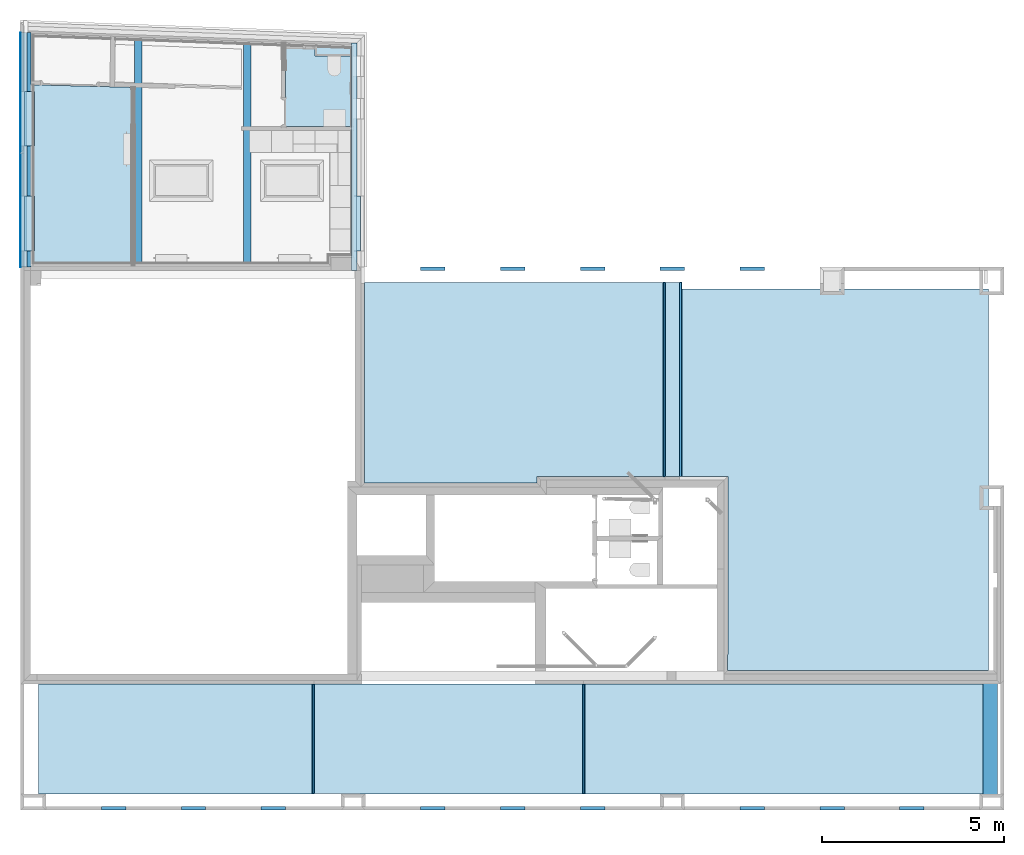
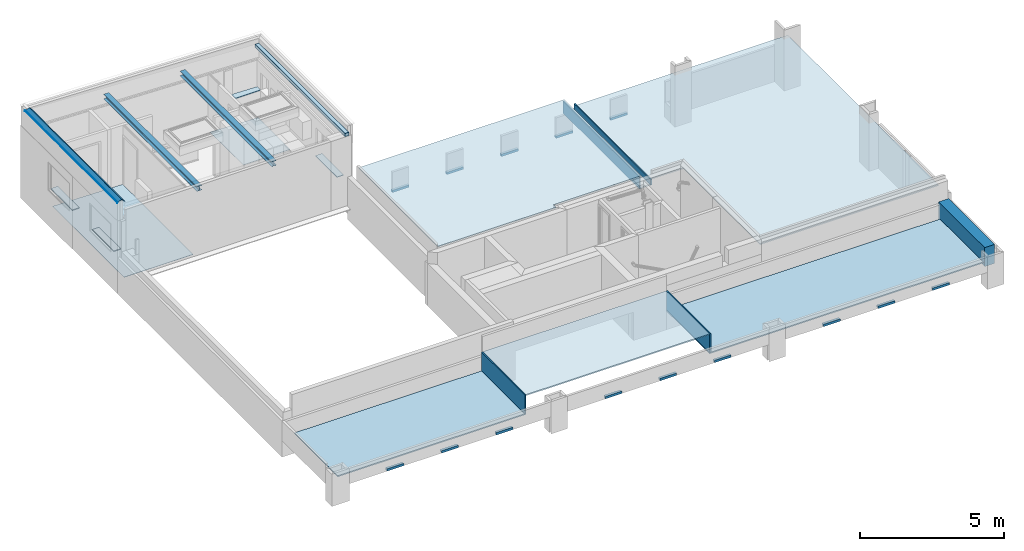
# One storey, part 1 of 23: 35 slabs, 4 members, 2 beams.
"""IFC2X3 building model written with IfcOpenShell, lengths in metres."""

from ifc_helpers import new_model, entity, si_unit, converted_unit, derived_unit, money_unit, direction, frame, frame_2d, origin_with_axes, place, context, subcontext, project, spatial, polyline, rectangle, outline, extrude, faceted_brep, material, type_object, element, save


model = new_model("IFC2X3")

# Units and contexts
model_context = context("Model", 3, precision=1e-05, world=origin_with_axes(), true_north=direction((0.0, 1.0)))
body_context = subcontext(model_context, "Body", "Model", "MODEL_VIEW", scale=1.0)
ifc_project = project(units=[si_unit("LENGTHUNIT", "METRE"), si_unit("AREAUNIT", "SQUARE_METRE"), si_unit("VOLUMEUNIT", "CUBIC_METRE"), si_unit("ABSORBEDDOSEUNIT", "GRAY"), si_unit("AMOUNTOFSUBSTANCEUNIT", "MOLE"), si_unit("DOSEEQUIVALENTUNIT", "SIEVERT"), si_unit("ELECTRICCAPACITANCEUNIT", "FARAD"), si_unit("ELECTRICCHARGEUNIT", "COULOMB"), si_unit("ELECTRICCONDUCTANCEUNIT", "SIEMENS"), si_unit("ELECTRICCURRENTUNIT", "AMPERE"), si_unit("ELECTRICRESISTANCEUNIT", "OHM"), si_unit("ELECTRICVOLTAGEUNIT", "VOLT"), si_unit("ENERGYUNIT", "JOULE"), si_unit("FORCEUNIT", "NEWTON"), si_unit("FREQUENCYUNIT", "HERTZ"), si_unit("ILLUMINANCEUNIT", "LUX"), si_unit("INDUCTANCEUNIT", "HENRY"), si_unit("LUMINOUSFLUXUNIT", "LUMEN"), si_unit("LUMINOUSINTENSITYUNIT", "CANDELA"), si_unit("MAGNETICFLUXDENSITYUNIT", "TESLA"), si_unit("MAGNETICFLUXUNIT", "WEBER"), si_unit("MASSUNIT", "GRAM"), converted_unit("PLANEANGLEUNIT", "degree", entity("IfcReal", 0.0174532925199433), si_unit("PLANEANGLEUNIT", "RADIAN"), dimensions=[0, 0, 0, 0, 0, 0, 0]), si_unit("POWERUNIT", "WATT"), si_unit("PRESSUREUNIT", "PASCAL"), si_unit("RADIOACTIVITYUNIT", "BECQUEREL"), si_unit("SOLIDANGLEUNIT", "STERADIAN"), si_unit("THERMODYNAMICTEMPERATUREUNIT", "KELVIN"), si_unit("TIMEUNIT", "SECOND"), derived_unit("ACCELERATIONUNIT", [(si_unit("LENGTHUNIT", "METRE"), 1), (si_unit("TIMEUNIT", "SECOND"), -2)]), derived_unit("ANGULARVELOCITYUNIT", [(converted_unit("PLANEANGLEUNIT", "degree", entity("IfcReal", 0.0174532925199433), si_unit("PLANEANGLEUNIT", "RADIAN"), dimensions=[0, 0, 0, 0, 0, 0, 0]), 1), (si_unit("TIMEUNIT", "SECOND"), -1)]), derived_unit("CURVATUREUNIT", [(converted_unit("PLANEANGLEUNIT", "degree", entity("IfcReal", 0.0174532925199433), si_unit("PLANEANGLEUNIT", "RADIAN"), dimensions=[0, 0, 0, 0, 0, 0, 0]), 1), (si_unit("LENGTHUNIT", "METRE"), -1)]), derived_unit("DYNAMICVISCOSITYUNIT", [(si_unit("PRESSUREUNIT", "PASCAL"), 1), (si_unit("TIMEUNIT", "SECOND"), 1)]), derived_unit("HEATFLUXDENSITYUNIT", [(si_unit("POWERUNIT", "WATT"), 1), (si_unit("LENGTHUNIT", "METRE"), -2)]), derived_unit("HEATINGVALUEUNIT", [(si_unit("ENERGYUNIT", "JOULE"), 1), (si_unit("MASSUNIT", "GRAM"), -1)]), derived_unit("INTEGERCOUNTRATEUNIT", [(si_unit("TIMEUNIT", "SECOND"), -1)]), derived_unit("IONCONCENTRATIONUNIT", [(si_unit("MASSUNIT", "GRAM"), 1), (si_unit("VOLUMEUNIT", "CUBIC_METRE"), -1)]), derived_unit("ISOTHERMALMOISTURECAPACITYUNIT", [(si_unit("VOLUMEUNIT", "CUBIC_METRE"), 1), (si_unit("MASSUNIT", "GRAM"), -1)]), derived_unit("KINEMATICVISCOSITYUNIT", [(si_unit("AREAUNIT", "SQUARE_METRE"), 1), (si_unit("TIMEUNIT", "SECOND"), -1)]), derived_unit("LINEARFORCEUNIT", [(si_unit("FORCEUNIT", "NEWTON"), 1), (si_unit("LENGTHUNIT", "METRE"), -1)]), derived_unit("LINEARMOMENTUNIT", [(si_unit("FORCEUNIT", "NEWTON"), 1), (si_unit("LENGTHUNIT", "METRE"), -1)]), derived_unit("LINEARSTIFFNESSUNIT", [(si_unit("FORCEUNIT", "NEWTON"), 1), (si_unit("LENGTHUNIT", "METRE"), -1)]), derived_unit("LINEARVELOCITYUNIT", [(si_unit("LENGTHUNIT", "METRE"), 1), (si_unit("TIMEUNIT", "SECOND"), -1)]), derived_unit("LUMINOUSINTENSITYDISTRIBUTIONUNIT", [(si_unit("LUMINOUSINTENSITYUNIT", "CANDELA"), 1), (si_unit("LUMINOUSFLUXUNIT", "LUMEN"), -1)]), derived_unit("MASSDENSITYUNIT", [(si_unit("MASSUNIT", "GRAM"), 1), (si_unit("VOLUMEUNIT", "CUBIC_METRE"), -1)]), derived_unit("MASSFLOWRATEUNIT", [(si_unit("MASSUNIT", "GRAM"), 1), (si_unit("TIMEUNIT", "SECOND"), -1)]), derived_unit("MASSPERLENGTHUNIT", [(si_unit("MASSUNIT", "GRAM"), 1), (si_unit("LENGTHUNIT", "METRE"), -1)]), derived_unit("MODULUSOFELASTICITYUNIT", [(si_unit("FORCEUNIT", "NEWTON"), 1), (si_unit("AREAUNIT", "SQUARE_METRE"), -1)]), derived_unit("MODULUSOFLINEARSUBGRADEREACTIONUNIT", [(si_unit("FORCEUNIT", "NEWTON"), 1), (si_unit("LENGTHUNIT", "METRE"), -2)]), derived_unit("MODULUSOFROTATIONALSUBGRADEREACTIONUNIT", [(si_unit("FORCEUNIT", "NEWTON"), 1), (si_unit("LENGTHUNIT", "METRE"), 1)]), derived_unit("MODULUSOFSUBGRADEREACTIONUNIT", [(si_unit("FORCEUNIT", "NEWTON"), 1), (si_unit("VOLUMEUNIT", "CUBIC_METRE"), -1)]), derived_unit("MOISTUREDIFFUSIVITYUNIT", [(si_unit("VOLUMEUNIT", "CUBIC_METRE"), 1), (si_unit("TIMEUNIT", "SECOND"), -1)]), derived_unit("MOLECULARWEIGHTUNIT", [(si_unit("MASSUNIT", "GRAM"), 1), (si_unit("AMOUNTOFSUBSTANCEUNIT", "MOLE"), -1)]), derived_unit("PLANARFORCEUNIT", [(si_unit("FORCEUNIT", "NEWTON"), 1), (si_unit("LENGTHUNIT", "METRE"), -2)]), derived_unit("ROTATIONALFREQUENCYUNIT", [(si_unit("TIMEUNIT", "SECOND"), -1)]), derived_unit("ROTATIONALMASSUNIT", [(si_unit("MASSUNIT", "GRAM"), 1), (si_unit("LENGTHUNIT", "METRE"), 2)]), derived_unit("ROTATIONALSTIFFNESSUNIT", [(si_unit("FORCEUNIT", "NEWTON"), 1), (si_unit("LENGTHUNIT", "METRE"), 1), (converted_unit("PLANEANGLEUNIT", "degree", entity("IfcReal", 0.0174532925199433), si_unit("PLANEANGLEUNIT", "RADIAN"), dimensions=[0, 0, 0, 0, 0, 0, 0]), -1)]), derived_unit("SECTIONAREAINTEGRALUNIT", [(si_unit("LENGTHUNIT", "METRE"), 5)]), derived_unit("SECTIONMODULUSUNIT", [(si_unit("LENGTHUNIT", "METRE"), 3)]), derived_unit("SHEARMODULUSUNIT", [(si_unit("FORCEUNIT", "NEWTON"), 1), (si_unit("AREAUNIT", "SQUARE_METRE"), -1)]), derived_unit("SOUNDPOWERUNIT", [(si_unit("ENERGYUNIT", "JOULE"), 1), (si_unit("TIMEUNIT", "SECOND"), -1)]), derived_unit("SPECIFICHEATCAPACITYUNIT", [(si_unit("FORCEUNIT", "NEWTON"), 1), (si_unit("MASSUNIT", "GRAM"), -1), (si_unit("THERMODYNAMICTEMPERATUREUNIT", "KELVIN"), -1)]), derived_unit("TEMPERATUREGRADIENTUNIT", [(si_unit("THERMODYNAMICTEMPERATUREUNIT", "KELVIN"), 1), (si_unit("LENGTHUNIT", "METRE"), -1)]), derived_unit("THERMALADMITTANCEUNIT", [(si_unit("POWERUNIT", "WATT"), 1), (si_unit("AREAUNIT", "SQUARE_METRE"), -1), (si_unit("THERMODYNAMICTEMPERATUREUNIT", "KELVIN"), -1)]), derived_unit("THERMALCONDUCTANCEUNIT", [(si_unit("POWERUNIT", "WATT"), 1), (si_unit("LENGTHUNIT", "METRE"), -1), (si_unit("THERMODYNAMICTEMPERATUREUNIT", "KELVIN"), -1)]), derived_unit("THERMALEXPANSIONCOEFFICIENTUNIT", [(si_unit("THERMODYNAMICTEMPERATUREUNIT", "KELVIN"), -1)]), derived_unit("THERMALRESISTANCEUNIT", [(si_unit("AREAUNIT", "SQUARE_METRE"), 1), (si_unit("POWERUNIT", "WATT"), -1)]), derived_unit("THERMALTRANSMITTANCEUNIT", [(si_unit("POWERUNIT", "WATT"), 1), (si_unit("AREAUNIT", "SQUARE_METRE"), -1), (si_unit("THERMODYNAMICTEMPERATUREUNIT", "KELVIN"), -1)]), derived_unit("TORQUEUNIT", [(si_unit("FORCEUNIT", "NEWTON"), 1), (si_unit("LENGTHUNIT", "METRE"), 1)]), derived_unit("VAPORPERMEABILITYUNIT", [(si_unit("MASSUNIT", "GRAM"), 1), (si_unit("TIMEUNIT", "SECOND"), -1)]), derived_unit("VOLUMETRICFLOWRATEUNIT", [(si_unit("VOLUMEUNIT", "CUBIC_METRE"), 1), (si_unit("TIMEUNIT", "SECOND"), -1)]), derived_unit("WARPINGCONSTANTUNIT", [(si_unit("LENGTHUNIT", "METRE"), 6)]), derived_unit("WARPINGMOMENTUNIT", [(si_unit("FORCEUNIT", "NEWTON"), 1), (si_unit("LENGTHUNIT", "METRE"), 2)]), money_unit("GBP")], contexts=[model_context])

# Site, building, storey
site_placement = place(None, origin_with_axes())
site = spatial("IfcSite", under=ifc_project, at=site_placement, Name="Site", CompositionType="ELEMENT")
building_placement = place(site_placement, origin_with_axes())
building = spatial("IfcBuilding", under=site, at=building_placement, Name="Building01", CompositionType="ELEMENT")
storey_placement = place(building_placement, frame((0.0, 0.0, 2.6), z_axis=(0.0, 0.0, 1.0), x_axis=(1.0, 0.0, 0.0)))
storey = spatial("IfcBuildingStorey", under=building, at=storey_placement, Name="MF", CompositionType="ELEMENT", Elevation=2.6)

# Beams
ifc_material_1 = material(Name="A_BSUK_Beams_Steel")
beam_type = type_object("IfcBeamType", Name="A-Beams-Steel", PredefinedType="BEAM")
beam_1_placement = place(storey_placement, frame((6.327424, 14.800006, 3.3068), z_axis=(0.0, 1.0, 0.0), x_axis=(-1.0, 0.0, 0.0)))
element("IfcBeam", 1, at=beam_1_placement, inside=storey, type_object=beam_type, material=ifc_material_1, Name="MZ", ObjectType="A-Beams-Steel", context=body_context, shape_type="SweptSolid", body=[
    extrude(outline(polyline([(0.2036, 0.0), (0.2036, 0.011), (0.1054, 0.011), (0.1054, 0.1922), (0.2036, 0.1922), (0.2036, 0.2032), (0.0, 0.2032), (0.0, 0.1922), (0.0982, 0.1922), (0.0982, 0.011), (0.0, 0.011), (0.0, 0.0), (0.2036, 0.0)])), origin_with_axes(), (0.0, 0.0, 1.0), 6.356644),
])
beam_2_placement = place(storey_placement, frame((3.327424, 14.800006, 3.3068), z_axis=(0.0, 1.0, 0.0), x_axis=(-1.0, 0.0, 0.0)))
element("IfcBeam", 2, at=beam_2_placement, inside=storey, type_object=beam_type, material=ifc_material_1, Name="MZ", ObjectType="A-Beams-Steel", context=body_context, shape_type="SweptSolid", body=[
    extrude(outline(polyline([(0.2036, 0.0), (0.2036, 0.011), (0.1054, 0.011), (0.1054, 0.1922), (0.2036, 0.1922), (0.2036, 0.2032), (0.0, 0.2032), (0.0, 0.1922), (0.0982, 0.1922), (0.0982, 0.011), (0.0, 0.011), (0.0, 0.0), (0.2036, 0.0)])), origin_with_axes(), (0.0, 0.0, 1.0), 6.467779),
])

# Members
ifc_material_2 = material(Name="A_BSUK_Steel_Miscellaneous")
member_type = type_object("IfcMemberType", Name="A-ZeeProfile01", PredefinedType="NOTDEFINED")
member_1_placement = place(storey_placement, frame((0.001098, 14.9, 3.88507), z_axis=(0.96520941, 0.0, 0.26147808), x_axis=(0.0, 1.0, 0.0)))
element("IfcMember", 3, at=member_1_placement, inside=storey, type_object=member_type, material=ifc_material_2, Name="A-ZeeProfile01", ObjectType="A-ZeeProfile01", context=body_context, shape_type="SweptSolid", body=[
    extrude(rectangle(XDim=6.427951, YDim=0.002, at=frame_2d((3.213976, 0.001), x_axis=(1.0, 0.0))), origin_with_axes(), (0.0, 0.0, 1.0), 0.183454),
])
member_2_placement = place(storey_placement, frame((-0.014143, 14.9, 3.872282), z_axis=(0.0, 0.0, -1.0), x_axis=(0.0, 1.0, 0.0)))
element("IfcMember", 4, at=member_2_placement, inside=storey, type_object=member_type, material=ifc_material_2, Name="A-ZeeProfile01", ObjectType="A-ZeeProfile01", context=body_context, shape_type="SweptSolid", body=[
    extrude(rectangle(XDim=6.427951, YDim=0.002, at=frame_2d((3.213976, 0.001), x_axis=(1.0, 0.0))), origin_with_axes(), (0.0, 0.0, 1.0), 0.020815),
])
member_3_placement = place(storey_placement, frame((0.001989, 14.9, 3.885586), z_axis=(-0.70710678, 0.0, -0.70710678), x_axis=(0.0, 1.0, 0.0)))
element("IfcMember", 5, at=member_3_placement, inside=storey, type_object=member_type, material=ifc_material_2, Name="A-ZeeProfile01", ObjectType="A-ZeeProfile01", context=body_context, shape_type="SweptSolid", body=[
    extrude(rectangle(XDim=6.427951, YDim=0.002, at=frame_2d((3.213976, -0.001), x_axis=(1.0, 0.0))), origin_with_axes(), (0.0, 0.0, 1.0), 0.020815),
])
member_4_placement = place(storey_placement, frame((0.17624, 14.9, 3.933559), z_axis=(0.7071316, 0.0, -0.70708196), x_axis=(0.0, 1.0, 0.0)))
element("IfcMember", 6, at=member_4_placement, inside=storey, type_object=member_type, material=ifc_material_2, Name="A-ZeeProfile01", ObjectType="A-ZeeProfile01", context=body_context, shape_type="SweptSolid", body=[
    extrude(rectangle(XDim=6.427951, YDim=0.002, at=frame_2d((3.213976, 0.001), x_axis=(1.0, 0.0))), origin_with_axes(), (0.0, 0.0, 1.0), 0.148481),
])

# Slabs
ifc_material_3 = material(Name="A_BSUK_Slabs")
slab_type = type_object("IfcSlabType", Name="A-FloorsSlabs A_BSUK_Slabs", PredefinedType="FLOOR")
placement = place(storey_placement, frame((0.0, 0.0, -2.6), z_axis=(0.0, 0.0, 1.0), x_axis=(1.0, 0.0, 0.0)))
element("IfcSlab", 7, at=placement, inside=storey, type_object=slab_type, material=ifc_material_3, Name="A-FloorsSlabs A_BSUK_Slabs", ObjectType="CompoundSlabLeaf", context=body_context, shape_type="Brep", body=[
    faceted_brep([(2.22, 0.0, 3.325), (2.22, 0.0, 3.425), (2.22, 0.100329, 3.425), (2.22, 0.100329, 3.325), (2.89, 0.0, 3.325), (2.89, 0.0, 3.425), (2.89, 0.1, 3.325), (2.89, 0.1, 3.425)], [[[0, 1, 2, 3]], [[4, 5, 1, 0]], [[6, 7, 5, 4]], [[3, 2, 7, 6]], [[1, 5, 7, 2]], [[3, 6, 4, 0]]]),
])
element("IfcSlab", 8, at=placement, inside=storey, type_object=slab_type, material=ifc_material_3, Name="A-FloorsSlabs A_BSUK_Slabs", ObjectType="CompoundSlabLeaf", context=body_context, shape_type="Brep", body=[
    faceted_brep([(4.41, 0.0, 3.325), (4.41, 0.0, 3.425), (4.41, 0.100329, 3.425), (4.41, 0.100329, 3.325), (5.08, 0.0, 3.325), (5.08, 0.0, 3.425), (5.08, 0.1, 3.325), (5.08, 0.1, 3.425)], [[[0, 1, 2, 3]], [[4, 5, 1, 0]], [[6, 7, 5, 4]], [[3, 2, 7, 6]], [[1, 5, 7, 2]], [[3, 6, 4, 0]]]),
])
element("IfcSlab", 9, at=placement, inside=storey, type_object=slab_type, material=ifc_material_3, Name="A-FloorsSlabs A_BSUK_Slabs", ObjectType="CompoundSlabLeaf", context=body_context, shape_type="Brep", body=[
    faceted_brep([(6.6, 0.0, 3.325), (6.6, 0.0, 3.425), (6.6, 0.100329, 3.425), (6.6, 0.100329, 3.325), (7.27, 0.0, 3.325), (7.27, 0.0, 3.425), (7.27, 0.1, 3.325), (7.27, 0.1, 3.425)], [[[0, 1, 2, 3]], [[4, 5, 1, 0]], [[6, 7, 5, 4]], [[3, 2, 7, 6]], [[1, 5, 7, 2]], [[3, 6, 4, 0]]]),
])
element("IfcSlab", 10, at=placement, inside=storey, type_object=slab_type, material=ifc_material_3, Name="A-FloorsSlabs A_BSUK_Slabs", ObjectType="CompoundSlabLeaf", context=body_context, shape_type="Brep", body=[
    faceted_brep([(10.98, 0.0, 3.325), (10.98, 0.0, 3.425), (10.98, 0.100329, 3.425), (10.98, 0.100329, 3.325), (11.65, 0.0, 3.325), (11.65, 0.0, 3.425), (11.65, 0.1, 3.325), (11.65, 0.1, 3.425)], [[[0, 1, 2, 3]], [[4, 5, 1, 0]], [[6, 7, 5, 4]], [[3, 2, 7, 6]], [[1, 5, 7, 2]], [[3, 6, 4, 0]]]),
])
element("IfcSlab", 11, at=placement, inside=storey, type_object=slab_type, material=ifc_material_3, Name="A-FloorsSlabs A_BSUK_Slabs", ObjectType="CompoundSlabLeaf", context=body_context, shape_type="Brep", body=[
    faceted_brep([(13.17, 0.0, 3.325), (13.17, 0.0, 3.425), (13.17, 0.100329, 3.425), (13.17, 0.100329, 3.325), (13.84, 0.0, 3.325), (13.84, 0.0, 3.425), (13.84, 0.1, 3.325), (13.84, 0.1, 3.425)], [[[0, 1, 2, 3]], [[4, 5, 1, 0]], [[6, 7, 5, 4]], [[3, 2, 7, 6]], [[1, 5, 7, 2]], [[3, 6, 4, 0]]]),
])
ifc_material_4 = material(Name="A_BSUK_ExpandedPolystyreneBoards")
element("IfcSlab", 12, at=placement, inside=storey, type_object=slab_type, material=ifc_material_4, Name="A-FloorsSlabs A_BSUK_Slabs", ObjectType="CompoundSlabLeaf", context=body_context, shape_type="Brep", body=[
    faceted_brep([(8.054094, 0.450128, 4.21), (8.054094, 0.450128, 4.26), (8.054094, 3.459213, 4.26), (8.054094, 3.459213, 4.21), (15.424099, 0.449338, 4.21), (15.424099, 0.449338, 4.26), (15.424099, 3.459213, 4.21), (15.424099, 3.459213, 4.26)], [[[0, 1, 2, 3]], [[4, 5, 1, 0]], [[6, 7, 5, 4]], [[3, 2, 7, 6]], [[1, 5, 7, 2]], [[3, 6, 4, 0]]]),
])
element("IfcSlab", 13, at=placement, inside=storey, type_object=slab_type, material=ifc_material_4, Name="A-FloorsSlabs A_BSUK_Slabs", ObjectType="CompoundSlabLeaf", context=body_context, shape_type="Brep", body=[
    faceted_brep([(0.5, 3.459213, 3.41), (0.5, 3.459213, 3.46), (8.054094, 3.459213, 3.46), (8.054094, 3.459213, 3.41), (0.5, 0.449667, 3.41), (0.5, 0.449667, 3.46), (8.054094, 0.449667, 3.41), (8.054094, 0.449667, 3.46)], [[[0, 1, 2, 3]], [[4, 5, 1, 0]], [[6, 7, 5, 4]], [[3, 2, 7, 6]], [[1, 5, 7, 2]], [[3, 6, 4, 0]]]),
])
element("IfcSlab", 14, at=placement, inside=storey, type_object=slab_type, material=ifc_material_4, Name="A-FloorsSlabs A_BSUK_Slabs", ObjectType="CompoundSlabLeaf", context=body_context, shape_type="Brep", body=[
    faceted_brep([(15.424099, 3.459213, 3.41), (15.424099, 3.459213, 3.46), (26.41, 3.459332, 3.46), (26.41, 3.459332, 3.41), (15.424099, 0.449338, 3.41), (15.424099, 0.449338, 3.46), (26.41, 0.44956, 3.41), (26.41, 0.44956, 3.46)], [[[0, 1, 2, 3]], [[4, 5, 1, 0]], [[6, 7, 5, 4]], [[3, 2, 7, 6]], [[1, 5, 7, 2]], [[3, 6, 4, 0]]]),
])
element("IfcSlab", 15, at=placement, inside=storey, type_object=slab_type, material=ifc_material_4, Name="A-FloorsSlabs A_BSUK_Slabs", ObjectType="CompoundSlabLeaf", context=body_context, shape_type="Brep", body=[
    faceted_brep([(8.004094, 3.459213, 3.46), (8.004094, 3.459213, 4.26), (8.054094, 3.459213, 4.26), (8.054094, 3.459213, 3.46), (8.004094, 0.449338, 3.46), (8.004094, 0.449338, 4.26), (8.054094, 0.449338, 3.46), (8.054094, 0.449338, 4.26)], [[[0, 1, 2, 3]], [[4, 5, 1, 0]], [[6, 7, 5, 4]], [[3, 2, 7, 6]], [[1, 5, 7, 2]], [[3, 6, 4, 0]]]),
])
element("IfcSlab", 16, at=placement, inside=storey, type_object=slab_type, material=ifc_material_3, Name="A-FloorsSlabs A_BSUK_Slabs", ObjectType="CompoundSlabLeaf", context=body_context, shape_type="Brep", body=[
    faceted_brep([(19.74, 14.799671, 3.099759), (19.74, 14.799671, 3.199759), (19.74, 14.9, 3.199759), (19.74, 14.9, 3.099759), (20.41, 14.8, 3.099759), (20.41, 14.8, 3.199759), (20.41, 14.9, 3.099759), (20.41, 14.9, 3.199759)], [[[0, 1, 2, 3]], [[4, 5, 1, 0]], [[6, 7, 5, 4]], [[3, 2, 7, 6]], [[1, 5, 7, 2]], [[3, 6, 4, 0]]]),
])
element("IfcSlab", 17, at=placement, inside=storey, type_object=slab_type, material=ifc_material_3, Name="A-FloorsSlabs A_BSUK_Slabs", ObjectType="CompoundSlabLeaf", context=body_context, shape_type="Brep", body=[
    faceted_brep([(17.55, 14.799671, 3.099759), (17.55, 14.799671, 3.199759), (17.55, 14.9, 3.199759), (17.55, 14.9, 3.099759), (18.22, 14.8, 3.099759), (18.22, 14.8, 3.199759), (18.22, 14.9, 3.099759), (18.22, 14.9, 3.199759)], [[[0, 1, 2, 3]], [[4, 5, 1, 0]], [[6, 7, 5, 4]], [[3, 2, 7, 6]], [[1, 5, 7, 2]], [[3, 6, 4, 0]]]),
])
element("IfcSlab", 18, at=placement, inside=storey, type_object=slab_type, material=ifc_material_3, Name="A-FloorsSlabs A_BSUK_Slabs", ObjectType="CompoundSlabLeaf", context=body_context, shape_type="Brep", body=[
    faceted_brep([(15.36, 14.799671, 3.099759), (15.36, 14.799671, 3.199759), (15.36, 14.9, 3.199759), (15.36, 14.9, 3.099759), (16.03, 14.8, 3.099759), (16.03, 14.8, 3.199759), (16.03, 14.9, 3.099759), (16.03, 14.9, 3.199759)], [[[0, 1, 2, 3]], [[4, 5, 1, 0]], [[6, 7, 5, 4]], [[3, 2, 7, 6]], [[1, 5, 7, 2]], [[3, 6, 4, 0]]]),
])
element("IfcSlab", 19, at=placement, inside=storey, type_object=slab_type, material=ifc_material_3, Name="A-FloorsSlabs A_BSUK_Slabs", ObjectType="CompoundSlabLeaf", context=body_context, shape_type="Brep", body=[
    faceted_brep([(13.17, 14.799671, 3.099759), (13.17, 14.799671, 3.199759), (13.17, 14.9, 3.199759), (13.17, 14.9, 3.099759), (13.84, 14.8, 3.099759), (13.84, 14.8, 3.199759), (13.84, 14.9, 3.099759), (13.84, 14.9, 3.199759)], [[[0, 1, 2, 3]], [[4, 5, 1, 0]], [[6, 7, 5, 4]], [[3, 2, 7, 6]], [[1, 5, 7, 2]], [[3, 6, 4, 0]]]),
])
element("IfcSlab", 20, at=placement, inside=storey, type_object=slab_type, material=ifc_material_3, Name="A-FloorsSlabs A_BSUK_Slabs", ObjectType="CompoundSlabLeaf", context=body_context, shape_type="Brep", body=[
    faceted_brep([(10.98, 14.799671, 3.099759), (10.98, 14.799671, 3.199759), (10.98, 14.9, 3.199759), (10.98, 14.9, 3.099759), (11.65, 14.8, 3.099759), (11.65, 14.8, 3.199759), (11.65, 14.9, 3.099759), (11.65, 14.9, 3.199759)], [[[0, 1, 2, 3]], [[4, 5, 1, 0]], [[6, 7, 5, 4]], [[3, 2, 7, 6]], [[1, 5, 7, 2]], [[3, 6, 4, 0]]]),
])
element("IfcSlab", 21, at=placement, inside=storey, type_object=slab_type, material=ifc_material_3, Name="A-FloorsSlabs A_BSUK_Slabs", ObjectType="CompoundSlabLeaf", context=body_context, shape_type="Brep", body=[
    faceted_brep([(15.36, 0.0, 3.325), (15.36, 0.0, 3.425), (15.36, 0.100329, 3.425), (15.36, 0.100329, 3.325), (16.03, 0.0, 3.325), (16.03, 0.0, 3.425), (16.03, 0.1, 3.325), (16.03, 0.1, 3.425)], [[[0, 1, 2, 3]], [[4, 5, 1, 0]], [[6, 7, 5, 4]], [[3, 2, 7, 6]], [[1, 5, 7, 2]], [[3, 6, 4, 0]]]),
])
element("IfcSlab", 22, at=placement, inside=storey, type_object=slab_type, material=ifc_material_3, Name="A-FloorsSlabs A_BSUK_Slabs", ObjectType="CompoundSlabLeaf", context=body_context, shape_type="Brep", body=[
    faceted_brep([(19.74, 0.0, 3.325), (19.74, 0.0, 3.425), (19.74, 0.100329, 3.425), (19.74, 0.100329, 3.325), (20.41, 0.0, 3.325), (20.41, 0.0, 3.425), (20.41, 0.1, 3.325), (20.41, 0.1, 3.425)], [[[0, 1, 2, 3]], [[4, 5, 1, 0]], [[6, 7, 5, 4]], [[3, 2, 7, 6]], [[1, 5, 7, 2]], [[3, 6, 4, 0]]]),
])
element("IfcSlab", 23, at=placement, inside=storey, type_object=slab_type, material=ifc_material_3, Name="A-FloorsSlabs A_BSUK_Slabs", ObjectType="CompoundSlabLeaf", context=body_context, shape_type="Brep", body=[
    faceted_brep([(21.93, 0.0, 3.325), (21.93, 0.0, 3.425), (21.93, 0.100329, 3.425), (21.93, 0.100329, 3.325), (22.6, 0.0, 3.325), (22.6, 0.0, 3.425), (22.6, 0.1, 3.325), (22.6, 0.1, 3.425)], [[[0, 1, 2, 3]], [[4, 5, 1, 0]], [[6, 7, 5, 4]], [[3, 2, 7, 6]], [[1, 5, 7, 2]], [[3, 6, 4, 0]]]),
])
element("IfcSlab", 24, at=placement, inside=storey, type_object=slab_type, material=ifc_material_3, Name="A-FloorsSlabs A_BSUK_Slabs", ObjectType="CompoundSlabLeaf", context=body_context, shape_type="Brep", body=[
    faceted_brep([(24.12, 0.0, 3.325), (24.12, 0.0, 3.425), (24.12, 0.100329, 3.425), (24.12, 0.100329, 3.325), (24.79, 0.0, 3.325), (24.79, 0.0, 3.425), (24.79, 0.1, 3.325), (24.79, 0.1, 3.425)], [[[0, 1, 2, 3]], [[4, 5, 1, 0]], [[6, 7, 5, 4]], [[3, 2, 7, 6]], [[1, 5, 7, 2]], [[3, 6, 4, 0]]]),
])
element("IfcSlab", 25, at=placement, inside=storey, type_object=slab_type, material=ifc_material_3, Name="A-FloorsSlabs A_BSUK_Slabs", ObjectType="CompoundSlabLeaf", context=body_context, shape_type="Brep", body=[
    faceted_brep([(26.81, 0.348679, 3.325), (26.81, 0.348679, 4.13), (26.41, 0.348679, 4.13), (26.41, 0.348679, 3.325), (26.81, 3.558962, 3.325), (26.81, 3.558962, 4.13), (26.41, 3.558962, 3.325), (26.41, 3.558962, 4.13)], [[[0, 1, 2, 3]], [[4, 5, 1, 0]], [[6, 7, 5, 4]], [[3, 2, 7, 6]], [[1, 5, 7, 2]], [[3, 6, 4, 0]]]),
])
element("IfcSlab", 26, at=placement, inside=storey, type_object=slab_type, material=ifc_material_4, Name="A-FloorsSlabs A_BSUK_Slabs", ObjectType="CompoundSlabLeaf", context=body_context, shape_type="Brep", body=[
    faceted_brep([(15.424099, 3.459213, 3.46), (15.424099, 3.459213, 4.26), (15.474099, 3.459213, 4.26), (15.474099, 3.459213, 3.46), (15.424099, 0.449338, 3.46), (15.424099, 0.449338, 4.26), (15.474099, 0.449338, 3.46), (15.474099, 0.449338, 4.26)], [[[0, 1, 2, 3]], [[4, 5, 1, 0]], [[6, 7, 5, 4]], [[3, 2, 7, 6]], [[1, 5, 7, 2]], [[3, 6, 4, 0]]]),
])
ifc_material_5 = material(Name="A_BSUK_Ceramic_WallTiles")
element("IfcSlab", 27, at=placement, inside=storey, type_object=slab_type, material=ifc_material_5, Name="A-FloorsSlabs A_BSUK_Slabs", ObjectType="CompoundSlabLeaf", context=body_context, shape_type="Brep", body=[
    faceted_brep([(8.074417, 20.683903, 4.535), (8.074417, 20.683903, 4.56), (8.074417, 20.953963, 4.56), (8.074417, 20.953963, 4.535), (9.082265, 20.683903, 4.535), (9.082265, 20.683903, 4.56), (9.082265, 20.916574, 4.535), (9.082265, 20.916574, 4.56)], [[[0, 1, 2, 3]], [[4, 5, 1, 0]], [[6, 7, 5, 4]], [[3, 2, 7, 6]], [[1, 5, 7, 2]], [[3, 6, 4, 0]]]),
])
ifc_material_6 = material(Name="A_BSUK_Carpet-Pile")
element("IfcSlab", 28, at=placement, inside=storey, type_object=slab_type, material=ifc_material_6, Name="A-FloorsSlabs A_BSUK_Slabs", ObjectType="CompoundSlabLeaf", context=body_context, shape_type="Brep", body=[
    faceted_brep([(0.280897, 19.90157, 3.17), (0.280897, 19.90157, 3.182), (3.057414, 19.830392, 3.182), (3.057414, 19.830392, 3.17), (0.280777, 14.93, 3.17), (0.280777, 14.93, 3.182), (3.057414, 14.93, 3.17), (3.057414, 14.93, 3.182)], [[[0, 1, 2, 3]], [[4, 5, 1, 0]], [[6, 7, 5, 4]], [[3, 2, 7, 6]], [[1, 5, 7, 2]], [[3, 6, 4, 0]]]),
])
ifc_material_7 = material(Name="A_BSUK_Ceramic_FloorTiles")
element("IfcSlab", 29, at=placement, inside=storey, type_object=slab_type, material=ifc_material_7, Name="A-FloorsSlabs A_BSUK_Slabs", ObjectType="CompoundSlabLeaf", context=body_context, shape_type="Brep", body=[
    faceted_brep([(7.263451, 21.056086, 3.17), (7.263451, 21.056086, 3.182), (9.154265, 20.985941, 3.182), (9.154265, 20.985941, 3.17), (7.275966, 18.752607, 3.17), (7.275966, 18.752607, 3.182), (9.154265, 18.752607, 3.17), (9.154265, 18.752607, 3.182)], [[[0, 1, 2, 3]], [[4, 5, 1, 0]], [[6, 7, 5, 4]], [[3, 2, 7, 6]], [[1, 5, 7, 2]], [[3, 6, 4, 0]]]),
])
ifc_material_8 = material(Name="A_BSUK_Timber_Miscellaneous")
element("IfcSlab", 30, at=placement, inside=storey, type_object=slab_type, material=ifc_material_8, Name="A-FloorsSlabs A_BSUK_Slabs", ObjectType="CompoundSlabLeaf", context=body_context, shape_type="Brep", body=[
    faceted_brep([(9.067259, 16.84279, 4.085), (9.067259, 16.84279, 4.11), (9.329665, 16.84279, 4.11), (9.329665, 16.84279, 4.085), (9.067259, 15.34279, 4.085), (9.067259, 15.34279, 4.11), (9.329665, 15.34279, 4.085), (9.329665, 15.34279, 4.11)], [[[0, 1, 2, 3]], [[4, 5, 1, 0]], [[6, 7, 5, 4]], [[3, 2, 7, 6]], [[1, 5, 7, 2]], [[3, 6, 4, 0]]]),
])
element("IfcSlab", 31, at=placement, inside=storey, type_object=slab_type, material=ifc_material_8, Name="A-FloorsSlabs A_BSUK_Slabs", ObjectType="CompoundSlabLeaf", context=body_context, shape_type="Brep", body=[
    faceted_brep([(0.103554, 16.84279, 4.085), (0.103554, 16.84279, 4.11), (0.383679, 16.84279, 4.11), (0.383679, 16.84279, 4.085), (0.103554, 15.34279, 4.085), (0.103554, 15.34279, 4.11), (0.383679, 15.34279, 4.085), (0.383679, 15.34279, 4.11)], [[[0, 1, 2, 3]], [[4, 5, 1, 0]], [[6, 7, 5, 4]], [[3, 2, 7, 6]], [[1, 5, 7, 2]], [[3, 6, 4, 0]]]),
])
element("IfcSlab", 32, at=placement, inside=storey, type_object=slab_type, material=ifc_material_8, Name="A-FloorsSlabs A_BSUK_Slabs", ObjectType="CompoundSlabLeaf", context=body_context, shape_type="Brep", body=[
    faceted_brep([(0.103351, 19.714248, 4.085), (0.103351, 19.714248, 4.11), (0.383679, 19.714248, 4.11), (0.383679, 19.714248, 4.085), (0.103351, 18.214248, 4.085), (0.103351, 18.214248, 4.11), (0.383679, 18.214248, 4.085), (0.383679, 18.214248, 4.11)], [[[0, 1, 2, 3]], [[4, 5, 1, 0]], [[6, 7, 5, 4]], [[3, 2, 7, 6]], [[1, 5, 7, 2]], [[3, 6, 4, 0]]]),
])
element("IfcSlab", 33, at=placement, inside=storey, type_object=slab_type, material=ifc_material_4, Name="A-FloorsSlabs A_BSUK_Slabs", ObjectType="CompoundSlabLeaf", context=body_context, shape_type="Brep", body=[
    faceted_brep([(18.08494, 14.299834, 4.590745), (18.08494, 14.299834, 4.640745), (26.562239, 14.299999, 4.640745), (26.562239, 14.299999, 4.590745), (18.083237, 9.153143, 4.590745), (18.083237, 9.153143, 4.640745), (19.402975, 9.153044, 4.590745), (19.402975, 9.153044, 4.640745), (19.402776, 3.833852, 4.590745), (19.402776, 3.833852, 4.640745), (26.562239, 3.833852, 4.590745), (26.562239, 3.833852, 4.640745)], [[[0, 1, 2, 3]], [[4, 5, 1, 0]], [[6, 7, 5, 4]], [[8, 9, 7, 6]], [[10, 11, 9, 8]], [[3, 2, 11, 10]], [[1, 5, 7, 9, 11, 2]], [[3, 10, 8, 6, 4, 0]]]),
])
element("IfcSlab", 34, at=placement, inside=storey, type_object=slab_type, material=ifc_material_4, Name="A-FloorsSlabs A_BSUK_Slabs", ObjectType="CompoundSlabLeaf", context=body_context, shape_type="Brep", body=[
    faceted_brep([(17.685, 14.48, 4.35), (17.685, 14.48, 4.4), (18.085, 14.48, 4.4), (18.085, 14.48, 4.35), (17.685, 9.153143, 4.35), (17.685, 9.153143, 4.4), (18.085, 9.153143, 4.35), (18.085, 9.153143, 4.4)], [[[0, 1, 2, 3]], [[4, 5, 1, 0]], [[6, 7, 5, 4]], [[3, 2, 7, 6]], [[1, 5, 7, 2]], [[3, 6, 4, 0]]]),
])
element("IfcSlab", 35, at=placement, inside=storey, type_object=slab_type, material=ifc_material_4, Name="A-FloorsSlabs A_BSUK_Slabs", ObjectType="CompoundSlabLeaf", context=body_context, shape_type="Brep", body=[
    faceted_brep([(9.443038, 8.973018, 4.85), (9.443038, 8.973018, 4.9), (9.443038, 14.48, 4.9), (9.443038, 14.48, 4.85), (14.17234, 8.972665, 4.85), (14.17234, 8.972665, 4.9), (14.172354, 9.147854, 4.85), (14.172354, 9.147854, 4.9), (17.684602, 9.147591, 4.85), (17.684602, 9.147591, 4.9), (17.685, 14.48, 4.85), (17.685, 14.48, 4.9)], [[[0, 1, 2, 3]], [[4, 5, 1, 0]], [[6, 7, 5, 4]], [[8, 9, 7, 6]], [[10, 11, 9, 8]], [[3, 2, 11, 10]], [[1, 5, 7, 9, 11, 2]], [[3, 10, 8, 6, 4, 0]]]),
])
element("IfcSlab", 36, at=placement, inside=storey, type_object=slab_type, material=ifc_material_4, Name="A-FloorsSlabs A_BSUK_Slabs", ObjectType="CompoundSlabLeaf", context=body_context, shape_type="Brep", body=[
    faceted_brep([(18.13494, 14.48, 4.35), (18.08494, 14.48, 4.35), (18.08494, 14.48, 4.590745), (18.13494, 14.48, 4.590745), (18.13494, 9.153143, 4.35), (18.08494, 9.153143, 4.35), (18.13494, 9.153143, 4.590745), (18.08494, 9.153143, 4.590745)], [[[0, 1, 2, 3]], [[4, 5, 1, 0]], [[6, 7, 5, 4]], [[3, 2, 7, 6]], [[1, 5, 7, 2]], [[3, 6, 4, 0]]]),
])
element("IfcSlab", 37, at=placement, inside=storey, type_object=slab_type, material=ifc_material_4, Name="A-FloorsSlabs A_BSUK_Slabs", ObjectType="CompoundSlabLeaf", context=body_context, shape_type="Brep", body=[
    faceted_brep([(17.685, 14.48, 4.35), (17.635, 14.48, 4.35), (17.635, 14.48, 4.85), (17.685, 14.48, 4.85), (17.685, 9.153143, 4.35), (17.635, 9.153143, 4.35), (17.685, 9.153143, 4.85), (17.635, 9.153143, 4.85)], [[[0, 1, 2, 3]], [[4, 5, 1, 0]], [[6, 7, 5, 4]], [[3, 2, 7, 6]], [[1, 5, 7, 2]], [[3, 6, 4, 0]]]),
])
ifc_material_9 = material(Name="A_BSUK_Insulation")
element("IfcSlab", 38, at=placement, inside=storey, type_object=slab_type, material=ifc_material_9, Name="A-FloorsSlabs A_BSUK_Slabs", ObjectType="CompoundSlabLeaf", context=body_context, shape_type="Brep", body=[
    faceted_brep([(9.226315, 14.800006, 6.1475), (9.226315, 14.800006, 6.2775), (9.075486, 14.800006, 6.2775), (9.075486, 14.800006, 6.1475), (9.225486, 21.045273, 6.1475), (9.225486, 21.045273, 6.2775), (9.075486, 21.050838, 6.1475), (9.075486, 21.050838, 6.2775)], [[[0, 1, 2, 3]], [[4, 5, 1, 0]], [[6, 7, 5, 4]], [[3, 2, 7, 6]], [[1, 5, 7, 2]], [[3, 6, 4, 0]]]),
])
element("IfcSlab", 39, at=placement, inside=storey, type_object=slab_type, material=ifc_material_9, Name="A-FloorsSlabs A_BSUK_Slabs", ObjectType="CompoundSlabLeaf", context=body_context, shape_type="Brep", body=[
    faceted_brep([(9.226315, 14.800006, 6.145), (9.226315, 14.800006, 6.1475), (9.075486, 14.800006, 6.1475), (9.075486, 14.800006, 6.145), (9.225486, 21.045273, 6.145), (9.225486, 21.045273, 6.1475), (9.075486, 21.050838, 6.145), (9.075486, 21.050838, 6.1475)], [[[0, 1, 2, 3]], [[4, 5, 1, 0]], [[6, 7, 5, 4]], [[3, 2, 7, 6]], [[1, 5, 7, 2]], [[3, 6, 4, 0]]]),
])
element("IfcSlab", 40, at=placement, inside=storey, type_object=slab_type, material=ifc_material_9, Name="A-FloorsSlabs A_BSUK_Slabs", ObjectType="CompoundSlabLeaf", context=body_context, shape_type="Brep", body=[
    faceted_brep([(9.226315, 14.800006, 6.2775), (9.226315, 14.800006, 6.2795), (9.075486, 14.800006, 6.2795), (9.075486, 14.800006, 6.2775), (9.225486, 21.045273, 6.2775), (9.225486, 21.045273, 6.2795), (9.075486, 21.050838, 6.2775), (9.075486, 21.050838, 6.2795)], [[[0, 1, 2, 3]], [[4, 5, 1, 0]], [[6, 7, 5, 4]], [[3, 2, 7, 6]], [[1, 5, 7, 2]], [[3, 6, 4, 0]]]),
])
element("IfcSlab", 41, at=placement, inside=storey, type_object=slab_type, material=ifc_material_9, Name="A-FloorsSlabs A_BSUK_Slabs", ObjectType="CompoundSlabLeaf", context=body_context, shape_type="Brep", body=[
    faceted_brep([(9.226315, 14.800006, 6.2795), (9.226315, 14.800006, 6.2837), (9.075486, 14.800006, 6.2837), (9.075486, 14.800006, 6.2795), (9.225486, 21.045273, 6.2795), (9.225486, 21.045273, 6.2837), (9.075486, 21.050838, 6.2795), (9.075486, 21.050838, 6.2837)], [[[0, 1, 2, 3]], [[4, 5, 1, 0]], [[6, 7, 5, 4]], [[3, 2, 7, 6]], [[1, 5, 7, 2]], [[3, 6, 4, 0]]]),
])

save(model, "model.ifc")
